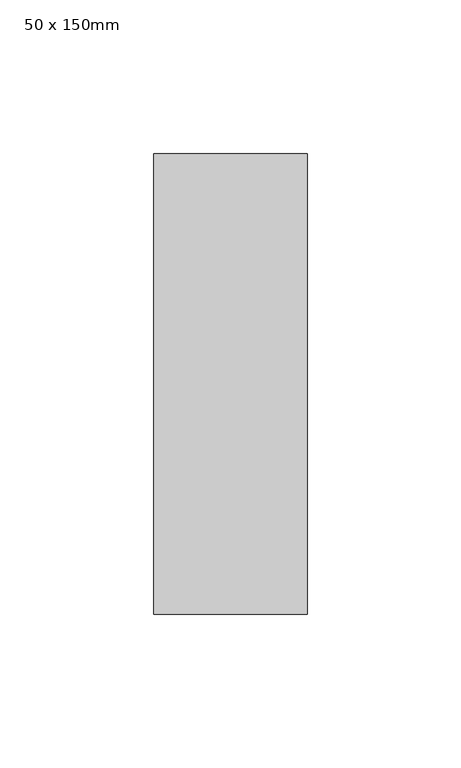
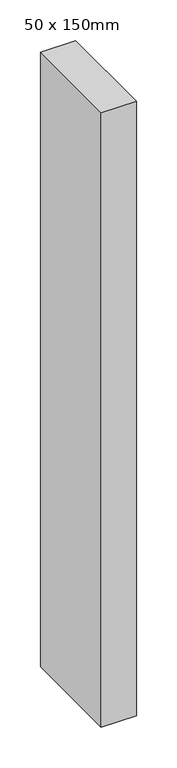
"""IFC4 building model written with IfcOpenShell, lengths in millimetres: member geometry, Prostokątny szpros : 50 x 150mm."""

from ifc_helpers import new_model, si_unit, frame, origin, place, context, project, spatial, polyline, outline, extrude, source, transform, mapped, element, save


def member_50_x_150mm_a91aaa2b(model_context):
    return source(origin(), model_context, "Body", "SweptSolid", [
        extrude(outline(polyline([(0.0, 75.0), (0.0, -75.0), (-50.0, -75.0), (-50.0, 75.0), (0.0, 75.0)])), frame((0.0, 0.0, -925.0), z_axis=(0.0, 0.0, 1.0), x_axis=(1.0, 0.0, 0.0)), (0.0, 0.0, 1.0), 925.0),
    ])


if __name__ == "__main__":
    model = new_model("IFC4")
    model_context = context("Model", 3, world=origin())
    ifc_project = project(units=[si_unit("LENGTHUNIT", "METRE", prefix="MILLI")], contexts=[model_context])
    site = spatial("IfcSite", under=ifc_project)
    building = spatial("IfcBuilding", under=site)
    placement = place(None, origin())
    member_50_x_150mm_shape = member_50_x_150mm_a91aaa2b(model_context)
    element("IfcMember", 1, ObjectType="Prostokątny szpros : 50 x 150mm", at=placement, inside=building, context=model_context, shape_type="MappedRepresentation", body=[
        mapped(member_50_x_150mm_shape, transform((0.0, 0.0, 0.0), x_axis=(1.0, 0.0, 0.0), y_axis=(0.0, 1.0, 0.0), z_axis=(0.0, 0.0, 1.0))),
    ])
    save(model, "model.ifc")
